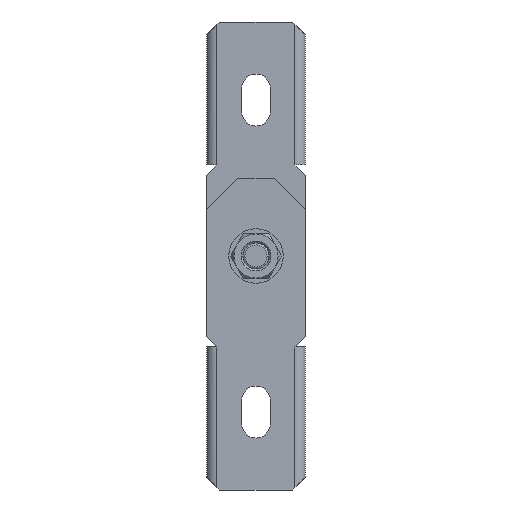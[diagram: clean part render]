
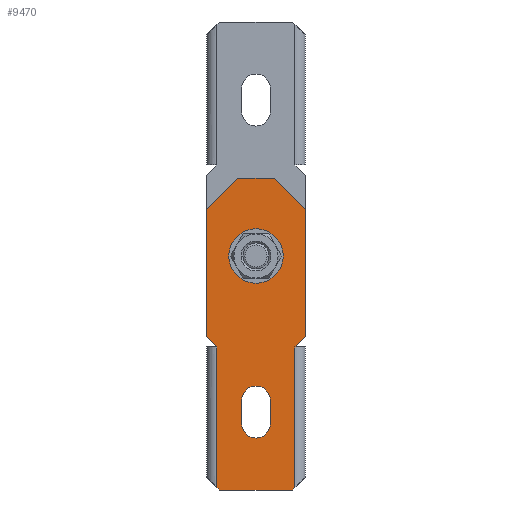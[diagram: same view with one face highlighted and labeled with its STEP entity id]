
A CAD part, left-side view. The second image highlights one B-rep face of the part: STEP entity #9470.
In plain terms, the highlighted planar face has unit normal (-1, 0, 0).
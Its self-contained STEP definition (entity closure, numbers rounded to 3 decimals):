
#1850=CARTESIAN_POINT('',(0.,0.,0.));
#1860=DIRECTION('',(0.,1.,0.));
#1870=VECTOR('',#1860,1.);
#1880=LINE('',#1850,#1870);
#1890=CARTESIAN_POINT('',(0.,5.,0.));
#1900=VERTEX_POINT('',#1890);
#1910=CARTESIAN_POINT('',(0.,33.,0.));
#1920=VERTEX_POINT('',#1910);
#1930=EDGE_CURVE('',#1900,#1920,#1880,.T.);
#2250=CARTESIAN_POINT('',(0.,33.,0.));
#2260=DIRECTION('',(0.,-0.707,0.707));
#2270=VECTOR('',#2260,1.);
#2280=LINE('',#2250,#2270);
#2290=CARTESIAN_POINT('',(0.,34.,-1.));
#2300=VERTEX_POINT('',#2290);
#2310=EDGE_CURVE('',#2300,#1920,#2280,.T.);
#3360=CARTESIAN_POINT('',(0.,4.,-1.));
#3370=VERTEX_POINT('',#3360);
#3400=CARTESIAN_POINT('',(0.,5.,0.));
#3410=DIRECTION('',(0.,0.707,0.707));
#3420=VECTOR('',#3410,1.);
#3430=LINE('',#3400,#3420);
#3440=EDGE_CURVE('',#3370,#1900,#3430,.T.);
#3690=CARTESIAN_POINT('',(0.,26.,-120.));
#3700=VERTEX_POINT('',#3690);
#3730=CARTESIAN_POINT('',(0.,0.,-120.));
#3740=DIRECTION('',(0.,1.,0.));
#3750=VECTOR('',#3740,1.);
#3760=LINE('',#3730,#3750);
#3770=CARTESIAN_POINT('',(0.,12.,-120.));
#3780=VERTEX_POINT('',#3770);
#3790=EDGE_CURVE('',#3780,#3700,#3760,.T.);
#4070=CARTESIAN_POINT('',(0.,38.,-108.));
#4080=VERTEX_POINT('',#4070);
#4110=CARTESIAN_POINT('',(0.,146.,0.));
#4120=DIRECTION('',(0.,-0.707,-0.707));
#4130=VECTOR('',#4120,1.);
#4140=LINE('',#4110,#4130);
#4150=EDGE_CURVE('',#4080,#3700,#4140,.T.);
#4260=CARTESIAN_POINT('',(0.,-108.,0.));
#4270=DIRECTION('',(0.,-0.707,0.707));
#4280=VECTOR('',#4270,1.);
#4290=LINE('',#4260,#4280);
#4300=CARTESIAN_POINT('',(0.,0.,-108.));
#4310=VERTEX_POINT('',#4300);
#4320=EDGE_CURVE('',#3780,#4310,#4290,.T.);
#4610=CARTESIAN_POINT('',(0.,19.,-95.5));
#4620=VERTEX_POINT('',#4610);
#4800=CARTESIAN_POINT('',(0.,19.,-84.5));
#4810=VERTEX_POINT('',#4800);
#4840=CARTESIAN_POINT('',(0.,19.,-90.));
#4850=DIRECTION('',(1.,0.,0.));
#4860=DIRECTION('',(0.,0.,-1.));
#4870=AXIS2_PLACEMENT_3D('',#4840,#4850,#4860);
#4880=CIRCLE('',#4870,5.5);
#4890=EDGE_CURVE('',#4810,#4620,#4880,.T.);
#5020=EDGE_CURVE('',#4620,#4810,#4880,.T.);
#5170=CARTESIAN_POINT('',(0.,4.,-55.));
#5180=VERTEX_POINT('',#5170);
#5770=CARTESIAN_POINT('',(0.,0.,-59.));
#5780=VERTEX_POINT('',#5770);
#5880=CARTESIAN_POINT('',(0.,0.,0.));
#5890=DIRECTION('',(0.,0.,1.));
#5900=VECTOR('',#5890,1.);
#5910=LINE('',#5880,#5900);
#5920=EDGE_CURVE('',#4310,#5780,#5910,.T.);
#6540=CARTESIAN_POINT('',(0.,59.,0.));
#6550=DIRECTION('',(0.,0.707,0.707));
#6560=VECTOR('',#6550,1.);
#6570=LINE('',#6540,#6560);
#6580=EDGE_CURVE('',#5780,#5180,#6570,.T.);
#7130=CARTESIAN_POINT('',(0.,34.,-55.));
#7140=VERTEX_POINT('',#7130);
#7520=CARTESIAN_POINT('',(0.,38.,-59.));
#7530=VERTEX_POINT('',#7520);
#7580=CARTESIAN_POINT('',(0.,38.,0.));
#7590=DIRECTION('',(0.,0.,1.));
#7600=VECTOR('',#7590,1.);
#7610=LINE('',#7580,#7600);
#7620=EDGE_CURVE('',#4080,#7530,#7610,.T.);
#8660=CARTESIAN_POINT('',(0.,-21.,0.));
#8670=DIRECTION('',(0.,0.707,-0.707));
#8680=VECTOR('',#8670,1.);
#8690=LINE('',#8660,#8680);
#8700=EDGE_CURVE('',#7140,#7530,#8690,.T.);
#8780=CARTESIAN_POINT('',(0.,4.,0.));
#8790=DIRECTION('',(1.,0.,0.));
#8800=DIRECTION('',(0.,-1.,0.));
#8810=AXIS2_PLACEMENT_3D('',#8780,#8790,#8800);
#8820=PLANE('',#8810);
#8830=CARTESIAN_POINT('',(0.,24.5,0.));
#8840=DIRECTION('',(0.,0.,1.));
#8850=VECTOR('',#8840,1.);
#8860=LINE('',#8830,#8850);
#8870=CARTESIAN_POINT('',(0.,24.5,-34.5));
#8880=VERTEX_POINT('',#8870);
#8890=CARTESIAN_POINT('',(0.,24.5,-25.5));
#8900=VERTEX_POINT('',#8890);
#8910=EDGE_CURVE('',#8880,#8900,#8860,.T.);
#8920=ORIENTED_EDGE('',*,*,#8910,.T.);
#8930=CARTESIAN_POINT('',(0.,19.,-34.5));
#8940=DIRECTION('',(-1.,0.,0.));
#8950=DIRECTION('',(0.,0.,-1.));
#8960=AXIS2_PLACEMENT_3D('',#8930,#8940,#8950);
#8970=CIRCLE('',#8960,5.5);
#8980=CARTESIAN_POINT('',(0.,13.5,-34.5));
#8990=VERTEX_POINT('',#8980);
#9000=EDGE_CURVE('',#8880,#8990,#8970,.T.);
#9010=ORIENTED_EDGE('',*,*,#9000,.F.);
#9020=CARTESIAN_POINT('',(0.,13.5,0.));
#9030=DIRECTION('',(0.,0.,-1.));
#9040=VECTOR('',#9030,1.);
#9050=LINE('',#9020,#9040);
#9060=CARTESIAN_POINT('',(0.,13.5,-25.5));
#9070=VERTEX_POINT('',#9060);
#9080=EDGE_CURVE('',#9070,#8990,#9050,.T.);
#9090=ORIENTED_EDGE('',*,*,#9080,.T.);
#9100=CARTESIAN_POINT('',(0.,19.,-25.5));
#9110=DIRECTION('',(1.,0.,0.));
#9120=DIRECTION('',(0.,0.,-1.));
#9130=AXIS2_PLACEMENT_3D('',#9100,#9110,#9120);
#9140=CIRCLE('',#9130,5.5);
#9150=EDGE_CURVE('',#8900,#9070,#9140,.T.);
#9160=ORIENTED_EDGE('',*,*,#9150,.T.);
#9170=EDGE_LOOP('',(#9160,#9090,#9010,#8920));
#9180=FACE_BOUND('',#9170,.T.);
#9190=ORIENTED_EDGE('',*,*,#6580,.T.);
#9200=ORIENTED_EDGE('',*,*,#5920,.T.);
#9210=ORIENTED_EDGE('',*,*,#4320,.T.);
#9220=ORIENTED_EDGE('',*,*,#3790,.F.);
#9230=ORIENTED_EDGE('',*,*,#4150,.T.);
#9240=ORIENTED_EDGE('',*,*,#7620,.F.);
#9250=ORIENTED_EDGE('',*,*,#8700,.T.);
#9260=CARTESIAN_POINT('',(0.,34.,0.));
#9270=DIRECTION('',(0.,0.,-1.));
#9280=VECTOR('',#9270,1.);
#9290=LINE('',#9260,#9280);
#9300=EDGE_CURVE('',#2300,#7140,#9290,.T.);
#9310=ORIENTED_EDGE('',*,*,#9300,.T.);
#9320=ORIENTED_EDGE('',*,*,#2310,.F.);
#9330=ORIENTED_EDGE('',*,*,#1930,.T.);
#9340=ORIENTED_EDGE('',*,*,#3440,.T.);
#9350=CARTESIAN_POINT('',(0.,4.,0.));
#9360=DIRECTION('',(0.,0.,-1.));
#9370=VECTOR('',#9360,1.);
#9380=LINE('',#9350,#9370);
#9390=EDGE_CURVE('',#3370,#5180,#9380,.T.);
#9400=ORIENTED_EDGE('',*,*,#9390,.F.);
#9410=EDGE_LOOP('',(#9400,#9340,#9330,#9320,#9310,#9250,#9240,#9230,
#9220,#9210,#9200,#9190));
#9420=FACE_OUTER_BOUND('',#9410,.T.);
#9430=ORIENTED_EDGE('',*,*,#5020,.T.);
#9440=ORIENTED_EDGE('',*,*,#4890,.T.);
#9450=EDGE_LOOP('',(#9440,#9430));
#9460=FACE_BOUND('',#9450,.T.);
#9470=ADVANCED_FACE('',(#9180,#9420,#9460),#8820,.F.);
